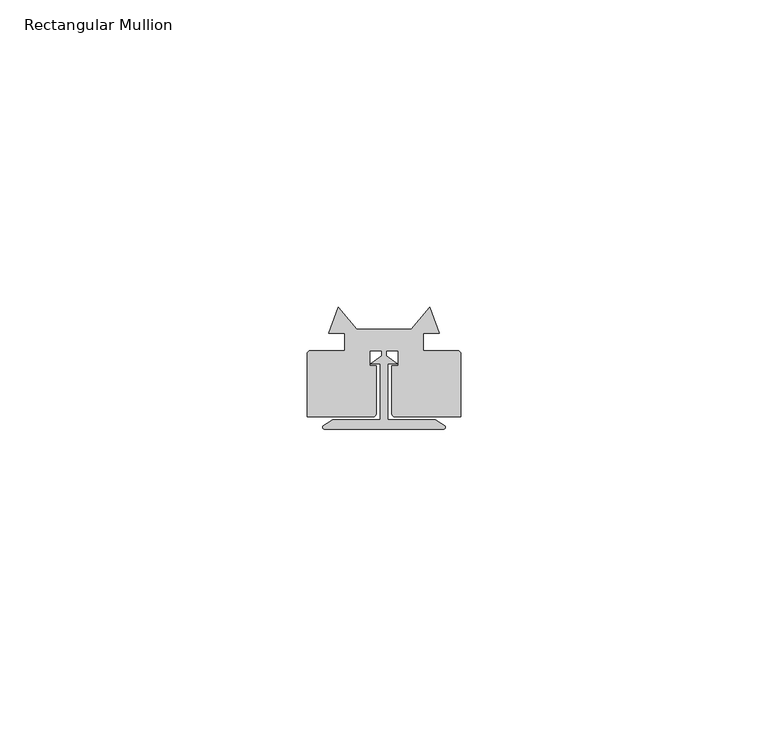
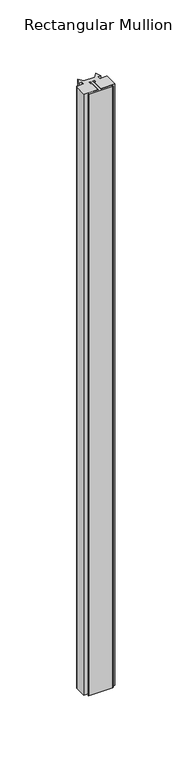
"""IFC4 building model written with IfcOpenShell, lengths in millimetres: member geometry, Rectangular Mullion : QO-V-01_01 Joint."""

from ifc_helpers import new_model, si_unit, point, frame, frame_2d, origin, place, context, project, spatial, polyline, circle_curve, trimmed, segment, composite_curve, outline, extrude, source, transform, mapped, element, save


def rectangular_mullion_b855e219(model_context):
    return source(origin(), model_context, "Body", "SweptSolid", [
        extrude(outline(composite_curve([segment(polyline([(0.6475876, 34.6160805), (0.6475876, 25.5027713), (8.3158634, 25.5027713), (9.8478388, 24.5783623)]), True, "CONTINUOUS"), segment(trimmed(circle_curve(frame_2d((9.6876801, 24.3129396)), 0.31), [point((9.8478388, 24.5783623))], [point((9.6876801, 24.0029396))], False, "CARTESIAN"), True, "CONTINUOUS"), segment(polyline([(9.6876801, 24.0029396), (-9.6923428, 24.0029396)]), True, "CONTINUOUS"), segment(trimmed(circle_curve(frame_2d((-9.6923428, 24.3129396)), 0.31), [point((-9.6923428, 24.0029396))], [point((-9.8525015, 24.5783623))], False, "CARTESIAN"), True, "CONTINUOUS"), segment(polyline([(-9.8525015, 24.5783623), (-8.3205261, 25.5027713), (-0.6524124, 25.5027713), (-0.6524124, 34.6160805), (-2.1674381, 34.6160805), (-0.3546092, 35.9759407), (-0.3546092, 36.7759407), (-2.3561345, 36.7759407), (-2.3561345, 34.317153), (-1.2879019, 34.317153), (-1.2879019, 26.5392087)]), True, "CONTINUOUS"), segment(trimmed(circle_curve(frame_2d((-1.7872786, 26.5150144)), 0.4999625), [point((-1.2879019, 26.5392087))], [point((-1.7872786, 26.0150519))], False, "CARTESIAN"), True, "CONTINUOUS"), segment(polyline([(-1.7872786, 26.0150519), (-12.5010847, 26.0150519), (-12.5010847, 36.190378)]), True, "CONTINUOUS"), segment(trimmed(circle_curve(frame_2d((-11.9010847, 36.190378)), 0.6), [point((-12.5010847, 36.190378))], [point((-11.9010847, 36.790378))], False, "CARTESIAN"), True, "CONTINUOUS"), segment(polyline([(-11.9010847, 36.790378), (-6.362561, 36.790378), (-6.362561, 39.6058207), (-8.961162, 39.6058207), (-7.4224126, 43.8493822), (-4.3991903, 40.3004498), (4.3943655, 40.3004498), (7.4175879, 43.8493822), (8.9563372, 39.6058207), (6.3577362, 39.6058207), (6.3577362, 36.790378), (11.8962599, 36.790378)]), True, "CONTINUOUS"), segment(trimmed(circle_curve(frame_2d((11.8962599, 36.190378)), 0.6), [point((11.8962599, 36.790378))], [point((12.4962599, 36.190378))], False, "CARTESIAN"), True, "CONTINUOUS"), segment(polyline([(12.4962599, 36.190378), (12.4962599, 26.0150519), (1.7824538, 26.0150519)]), True, "CONTINUOUS"), segment(trimmed(circle_curve(frame_2d((1.7824538, 26.5150144)), 0.4999625), [point((1.7824538, 26.0150519))], [point((1.2830771, 26.5392087))], False, "CARTESIAN"), True, "CONTINUOUS"), segment(polyline([(1.2830771, 26.5392087), (1.2830771, 34.317153), (2.3513097, 34.317153), (2.3513097, 36.7759407), (0.3497844, 36.7759407), (0.3497844, 35.9759407), (2.1626133, 34.6160805), (0.6475876, 34.6160805)]), True, "CONTINUOUS")], self_intersect=False)), frame((0.0, 0.0, -515.0000003), z_axis=(0.0, 0.0, 1.0), x_axis=(1.0, 0.0, 0.0)), (0.0, 0.0, 1.0), 515.0000003),
    ])


if __name__ == "__main__":
    model = new_model("IFC4")
    model_context = context("Model", 3, world=origin())
    ifc_project = project(units=[si_unit("LENGTHUNIT", "METRE", prefix="MILLI")], contexts=[model_context])
    site = spatial("IfcSite", under=ifc_project)
    building = spatial("IfcBuilding", under=site)
    placement = place(None, origin())
    rectangular_mullion_shape = rectangular_mullion_b855e219(model_context)
    element("IfcMember", 1, ObjectType="Rectangular Mullion : QO-V-01_01 Joint", at=placement, inside=building, context=model_context, shape_type="MappedRepresentation", body=[
        mapped(rectangular_mullion_shape, transform((0.0, 0.0, 0.0), x_axis=(1.0, 0.0, 0.0), y_axis=(0.0, 1.0, 0.0), z_axis=(0.0, 0.0, 1.0))),
    ])
    save(model, "model.ifc")
